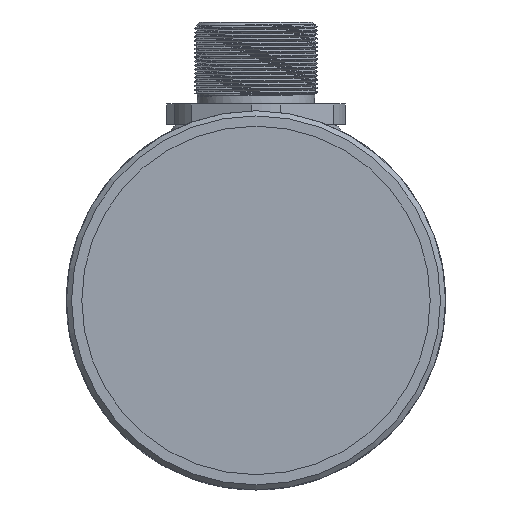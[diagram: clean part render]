
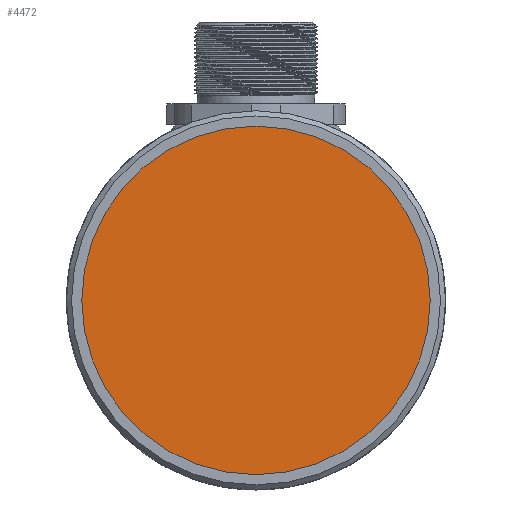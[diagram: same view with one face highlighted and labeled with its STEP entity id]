
A CAD part, left-side view. The second image highlights one B-rep face of the part: STEP entity #4472.
In plain terms, the highlighted planar face has unit normal (-1, 0, 0).
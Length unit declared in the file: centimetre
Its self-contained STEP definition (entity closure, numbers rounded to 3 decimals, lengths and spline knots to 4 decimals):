
#881=CIRCLE('',#4760,1.7);
#1092=VERTEX_POINT('',#6424);
#2128=EDGE_CURVE('',#1092,#1092,#881,.T.);
#2872=ORIENTED_EDGE('',*,*,#2128,.T.);
#3858=EDGE_LOOP('',(#2872));
#4168=FACE_BOUND('',#3858,.T.);
#4472=ADVANCED_FACE('',(#4168),#19588,.T.);
#4760=AXIS2_PLACEMENT_3D('',#6423,#5247,#5248);
#4762=AXIS2_PLACEMENT_3D('',#6427,#5251,$);
#5247=DIRECTION('',(-1.,0.,0.));
#5248=DIRECTION('',(0.,0.,1.7));
#5251=DIRECTION('',(-1.,0.,0.));
#6423=CARTESIAN_POINT('',(0.1,0.,0.));
#6424=CARTESIAN_POINT('',(0.1,0.,1.7));
#6427=CARTESIAN_POINT('',(0.1,0.,0.));
#19588=PLANE('',#4762);
